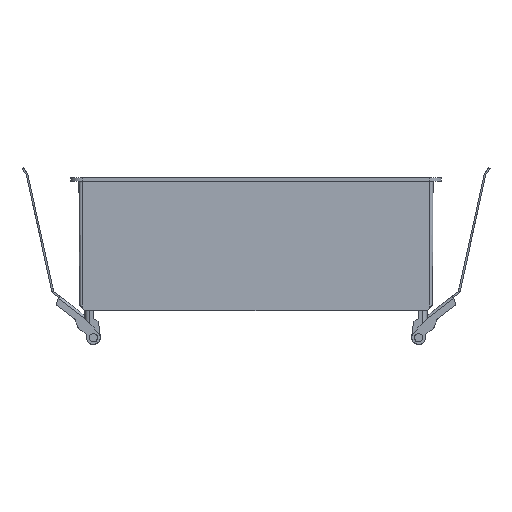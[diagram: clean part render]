
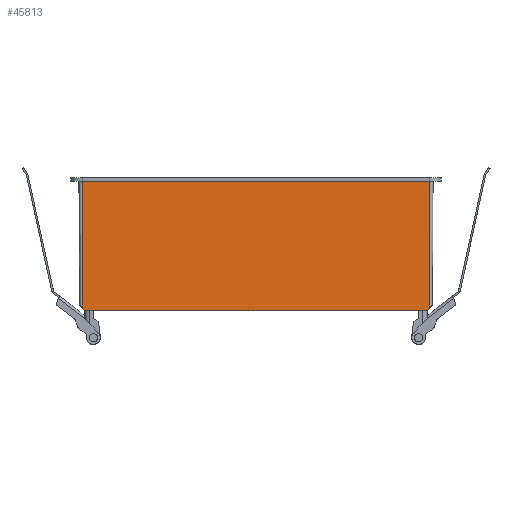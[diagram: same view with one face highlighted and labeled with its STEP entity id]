
A CAD part, front view. The second image highlights one B-rep face of the part: STEP entity #45813.
In plain terms, the highlighted planar face has unit normal (0, -1, -0.006).
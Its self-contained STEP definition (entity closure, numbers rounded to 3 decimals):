
#10364=FACE_OUTER_BOUND('',#13244,.T.);
#13244=EDGE_LOOP('',(#41584,#41585,#41586,#41587,#41588,#41589));
#14904=LINE('',#153056,#16729);
#14920=LINE('',#153100,#16745);
#14925=LINE('',#153122,#16750);
#14958=LINE('',#153239,#16783);
#14984=LINE('',#153311,#16809);
#14985=LINE('',#153313,#16810);
#16729=VECTOR('',#61334,10.);
#16745=VECTOR('',#61372,10.);
#16750=VECTOR('',#61395,10.);
#16783=VECTOR('',#61522,10.);
#16809=VECTOR('',#61604,10.);
#16810=VECTOR('',#61607,10.);
#21017=VERTEX_POINT('',#153053);
#21018=VERTEX_POINT('',#153055);
#21034=VERTEX_POINT('',#153097);
#21035=VERTEX_POINT('',#153099);
#21043=VERTEX_POINT('',#153121);
#21080=VERTEX_POINT('',#153238);
#27843=EDGE_CURVE('',#21018,#21017,#14904,.T.);
#27865=EDGE_CURVE('',#21035,#21034,#14920,.T.);
#27876=EDGE_CURVE('',#21035,#21043,#14925,.T.);
#27934=EDGE_CURVE('',#21080,#21043,#14958,.T.);
#27971=EDGE_CURVE('',#21080,#21017,#14984,.T.);
#27972=EDGE_CURVE('',#21034,#21018,#14985,.F.);
#41584=ORIENTED_EDGE('',*,*,#27843,.T.);
#41585=ORIENTED_EDGE('',*,*,#27971,.F.);
#41586=ORIENTED_EDGE('',*,*,#27934,.T.);
#41587=ORIENTED_EDGE('',*,*,#27876,.F.);
#41588=ORIENTED_EDGE('',*,*,#27865,.T.);
#41589=ORIENTED_EDGE('',*,*,#27972,.T.);
#43095=PLANE('',#50772);
#45813=ADVANCED_FACE('',(#10364),#43095,.T.);
#50772=AXIS2_PLACEMENT_3D('',#153312,#61605,#61606);
#61334=DIRECTION('',(0.643,-0.005,0.766));
#61372=DIRECTION('',(0.643,0.005,-0.766));
#61395=DIRECTION('',(0.,-0.006,1.));
#61522=DIRECTION('',(-1.,0.,0.));
#61604=DIRECTION('',(0.,0.006,-1.));
#61605=DIRECTION('center_axis',(0.,-1.,-0.006));
#61606=DIRECTION('ref_axis',(1.,0.,0.));
#61607=DIRECTION('',(-1.,0.,0.));
#153053=CARTESIAN_POINT('',(103.747,-18.984,1.756));
#153055=CARTESIAN_POINT('',(102.273,-18.974,0.));
#153056=CARTESIAN_POINT('',(60.783,-18.672,-49.447));
#153097=CARTESIAN_POINT('',(-102.273,-18.974,0.));
#153099=CARTESIAN_POINT('',(-103.747,-18.984,1.756));
#153100=CARTESIAN_POINT('',(-104.474,-18.99,2.622));
#153121=CARTESIAN_POINT('',(-103.747,-19.447,77.5));
#153122=CARTESIAN_POINT('',(-103.747,-18.974,0.001));
#153238=CARTESIAN_POINT('',(103.747,-19.447,77.5));
#153239=CARTESIAN_POINT('',(-52.874,-19.447,77.5));
#153311=CARTESIAN_POINT('',(103.747,-18.974,0.001));
#153312=CARTESIAN_POINT('Origin',(-105.747,-18.974,0.001));
#153313=CARTESIAN_POINT('',(-52.874,-18.974,0.));
